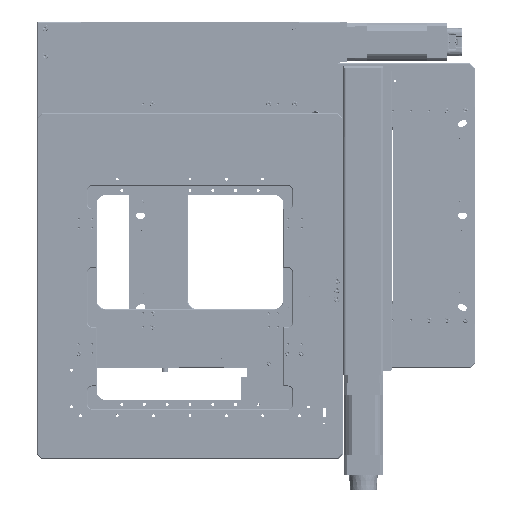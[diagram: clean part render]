
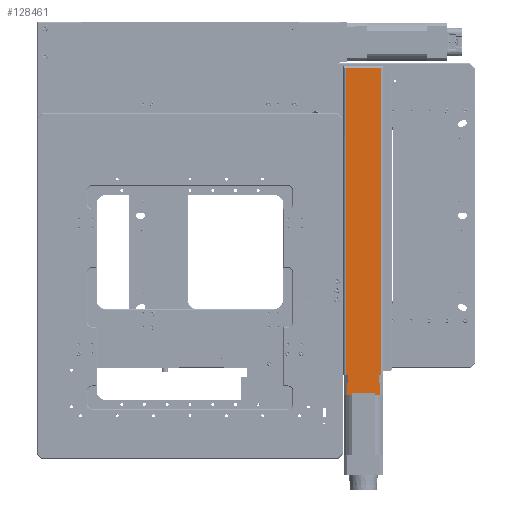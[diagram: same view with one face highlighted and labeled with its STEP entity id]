
A CAD part, top view. The second image highlights one B-rep face of the part: STEP entity #128461.
In plain terms, the highlighted planar face has unit normal (0, 0, 1).
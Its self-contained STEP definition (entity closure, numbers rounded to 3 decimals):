
#7650=LINE($,#190309,#17812);
#7651=LINE($,#190313,#17813);
#7654=LINE($,#190328,#17816);
#11332=LINE($,#229125,#21494);
#11336=LINE($,#229137,#21498);
#11381=LINE($,#229374,#21543);
#11382=LINE($,#229375,#21544);
#11386=LINE($,#229381,#21548);
#11387=LINE($,#229384,#21549);
#11392=LINE($,#229399,#21554);
#11393=LINE($,#229401,#21555);
#11400=LINE($,#229414,#21562);
#11479=LINE($,#229753,#21641);
#11487=LINE($,#229769,#21649);
#11496=LINE($,#229786,#21658);
#12666=LINE($,#234119,#22828);
#17812=VECTOR($,#153891,2.);
#17813=VECTOR($,#153896,337.);
#17816=VECTOR($,#153909,337.);
#21494=VECTOR($,#164707,0.755);
#21498=VECTOR($,#164717,0.755);
#21543=VECTOR($,#164878,25.239);
#21544=VECTOR($,#164879,2.25);
#21548=VECTOR($,#164883,2.25);
#21549=VECTOR($,#164886,5.136);
#21554=VECTOR($,#164901,5.136);
#21555=VECTOR($,#164904,12.8);
#21562=VECTOR($,#164919,12.8);
#21641=VECTOR($,#165214,9.);
#21649=VECTOR($,#165226,9.);
#21658=VECTOR($,#165245,2.);
#22828=VECTOR($,#169577,38.);
#34825=FACE_OUTER_BOUND($,#44244,.T.);
#44244=EDGE_LOOP($,(#106655,#106656,#106657,#106658,#106659,#106660,#106661,
#106662,#106663,#106664,#106665,#106666,#106667,#106668,#106669,#106670));
#54114=VERTEX_POINT($,#190306);
#54115=VERTEX_POINT($,#190308);
#54116=VERTEX_POINT($,#190312);
#54122=VERTEX_POINT($,#190325);
#54123=VERTEX_POINT($,#190327);
#58376=VERTEX_POINT($,#229121);
#58378=VERTEX_POINT($,#229124);
#58381=VERTEX_POINT($,#229131);
#58383=VERTEX_POINT($,#229135);
#58437=VERTEX_POINT($,#229331);
#58451=VERTEX_POINT($,#229368);
#58452=VERTEX_POINT($,#229372);
#58453=VERTEX_POINT($,#229373);
#58456=VERTEX_POINT($,#229383);
#58461=VERTEX_POINT($,#229397);
#58557=VERTEX_POINT($,#229767);
#67351=EDGE_CURVE($,#54115,#54114,#7650,.T.);
#67353=EDGE_CURVE($,#54115,#54116,#7651,.T.);
#67360=EDGE_CURVE($,#54123,#54122,#7654,.T.);
#73712=EDGE_CURVE($,#58378,#58376,#11332,.T.);
#73718=EDGE_CURVE($,#58381,#58383,#11336,.T.);
#73805=EDGE_CURVE($,#58452,#58453,#11381,.T.);
#73806=EDGE_CURVE($,#58451,#58452,#11382,.T.);
#73810=EDGE_CURVE($,#58453,#58437,#11386,.T.);
#73811=EDGE_CURVE($,#58451,#58456,#11387,.T.);
#73819=EDGE_CURVE($,#58461,#58437,#11392,.T.);
#73820=EDGE_CURVE($,#58378,#58461,#11393,.T.);
#73828=EDGE_CURVE($,#58383,#58456,#11400,.T.);
#73962=EDGE_CURVE($,#58381,#54114,#11479,.T.);
#73970=EDGE_CURVE($,#58557,#58376,#11487,.T.);
#73979=EDGE_CURVE($,#58557,#54123,#11496,.T.);
#75852=EDGE_CURVE($,#54116,#54122,#12666,.T.);
#106655=ORIENTED_EDGE($,*,*,#73962,.F.);
#106656=ORIENTED_EDGE($,*,*,#73718,.T.);
#106657=ORIENTED_EDGE($,*,*,#73828,.T.);
#106658=ORIENTED_EDGE($,*,*,#73811,.F.);
#106659=ORIENTED_EDGE($,*,*,#73806,.T.);
#106660=ORIENTED_EDGE($,*,*,#73805,.T.);
#106661=ORIENTED_EDGE($,*,*,#73810,.T.);
#106662=ORIENTED_EDGE($,*,*,#73819,.F.);
#106663=ORIENTED_EDGE($,*,*,#73820,.F.);
#106664=ORIENTED_EDGE($,*,*,#73712,.T.);
#106665=ORIENTED_EDGE($,*,*,#73970,.F.);
#106666=ORIENTED_EDGE($,*,*,#73979,.T.);
#106667=ORIENTED_EDGE($,*,*,#67360,.T.);
#106668=ORIENTED_EDGE($,*,*,#75852,.F.);
#106669=ORIENTED_EDGE($,*,*,#67353,.F.);
#106670=ORIENTED_EDGE($,*,*,#67351,.T.);
#114597=PLANE($,#139249);
#128461=ADVANCED_FACE($,(#34825),#114597,.T.);
#139249=AXIS2_PLACEMENT_3D($,#234118,#169575,#169576);
#153891=DIRECTION($,(1.,0.,0.));
#153896=DIRECTION($,(0.,1.,0.));
#153909=DIRECTION($,(0.,1.,0.));
#164707=DIRECTION($,(-1.,0.,0.));
#164717=DIRECTION($,(-1.,0.,0.));
#164878=DIRECTION($,(1.,0.,0.));
#164879=DIRECTION($,(0.,1.,0.));
#164883=DIRECTION($,(0.,-1.,0.));
#164886=DIRECTION($,(-1.,0.,0.));
#164901=DIRECTION($,(-1.,0.,0.));
#164904=DIRECTION($,(0.,-1.,0.));
#164919=DIRECTION($,(0.,-1.,0.));
#165214=DIRECTION($,(0.,1.,0.));
#165226=DIRECTION($,(0.,-1.,0.));
#165245=DIRECTION($,(1.,0.,0.));
#169575=DIRECTION('center_axis',(0.,0.,
1.));
#169576=DIRECTION('ref_axis',(1.,0.,0.));
#169577=DIRECTION($,(1.,0.,0.));
#190306=CARTESIAN_POINT('',(341.,-748.368,42.));
#190308=CARTESIAN_POINT('',(339.,-748.368,42.));
#190309=CARTESIAN_POINT($,(336.,-748.368,42.));
#190312=CARTESIAN_POINT('',(339.,-411.368,42.));
#190313=CARTESIAN_POINT($,(339.,-748.368,42.));
#190325=CARTESIAN_POINT('',(377.,-411.368,42.));
#190327=CARTESIAN_POINT('',(377.,-748.368,42.));
#190328=CARTESIAN_POINT($,(377.,-578.368,42.));
#229121=CARTESIAN_POINT('',(375.,-757.368,42.));
#229124=CARTESIAN_POINT('',(375.755,-757.368,42.));
#229125=CARTESIAN_POINT($,(375.755,-757.368,42.));
#229131=CARTESIAN_POINT('',(341.,-757.368,42.));
#229135=CARTESIAN_POINT('',(340.245,-757.368,42.));
#229137=CARTESIAN_POINT($,(375.755,-757.368,42.));
#229331=CARTESIAN_POINT('',(370.619,-770.168,42.));
#229368=CARTESIAN_POINT('',(345.381,-770.168,42.));
#229372=CARTESIAN_POINT('',(345.381,-767.918,42.));
#229373=CARTESIAN_POINT('',(370.619,-767.918,42.));
#229374=CARTESIAN_POINT($,(358.,-767.918,42.));
#229375=CARTESIAN_POINT($,(345.381,-770.168,42.));
#229381=CARTESIAN_POINT($,(370.619,-770.168,42.));
#229383=CARTESIAN_POINT('',(340.245,-770.168,42.));
#229384=CARTESIAN_POINT($,(375.755,-770.168,42.));
#229397=CARTESIAN_POINT('',(375.755,-770.168,42.));
#229399=CARTESIAN_POINT($,(375.755,-770.168,42.));
#229401=CARTESIAN_POINT($,(375.755,-757.368,42.));
#229414=CARTESIAN_POINT($,(340.245,-757.368,42.));
#229753=CARTESIAN_POINT($,(341.,-748.368,42.));
#229767=CARTESIAN_POINT('',(375.,-748.368,42.));
#229769=CARTESIAN_POINT($,(375.,-748.368,42.));
#229786=CARTESIAN_POINT($,(336.,-748.368,42.));
#234118=CARTESIAN_POINT('Origin',(336.,-748.368,42.));
#234119=CARTESIAN_POINT($,(369.,-411.368,42.));
